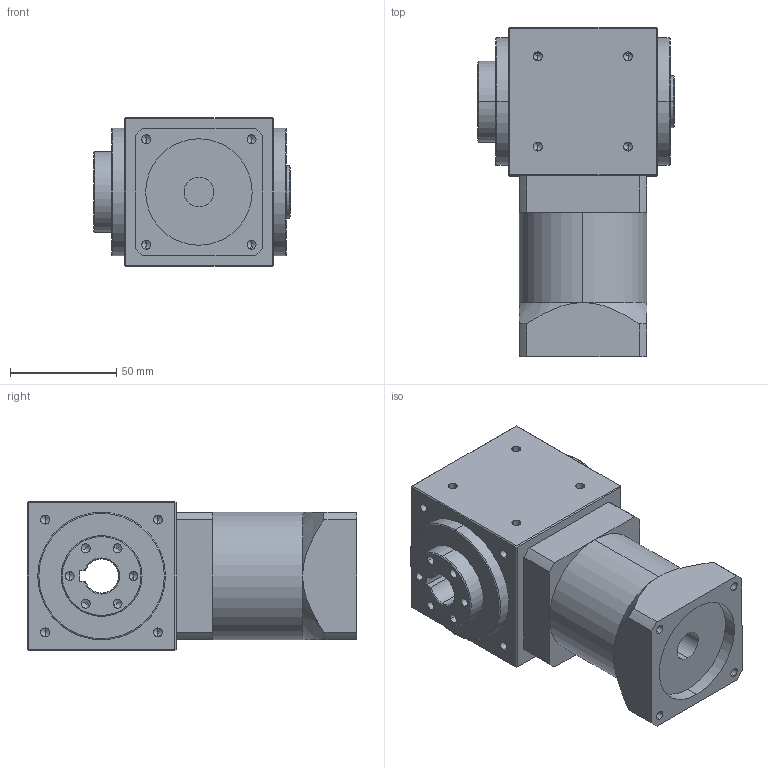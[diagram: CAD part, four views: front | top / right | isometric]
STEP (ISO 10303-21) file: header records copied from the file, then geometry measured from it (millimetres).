
FILE_DESCRIPTION (( 'STEP AP214' ), '1' );
FILE_NAME ('RXW070AS-L1-RFK-400W.STEP', '2020-09-11T04:30:28', ( 'User' ), ( 'Far123' ), 'SwSTEP 2.0', 'SolidWorks 2015', '' );
FILE_SCHEMA (( 'AUTOMOTIVE_DESIGN' ));
Length unit declared in the file: millimetre
Products named in the file (1): RXW070AS-L1-RFK-400W
Bounding box: 92.5 x 155 x 70 mm (x, y, z)
Volume: 615936.2 mm3; surface area: 62893.6 mm2
Topology: 1 solids, 1 shells, 211 faces, 514 edges, 274 vertices
Faces by surface type: cylinder 85, cone 74, plane 48, torus 4
Entity records: 6566 total; most frequent: CARTESIAN_POINT 1184, DIRECTION 1042, ORIENTED_EDGE 908, EDGE_CURVE 454, AXIS2_PLACEMENT_3D 404, VERTEX_POINT 274, EDGE_LOOP 250, VECTOR 234
